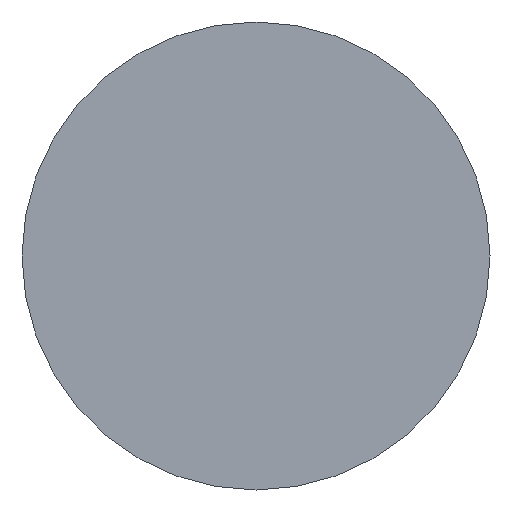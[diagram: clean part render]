
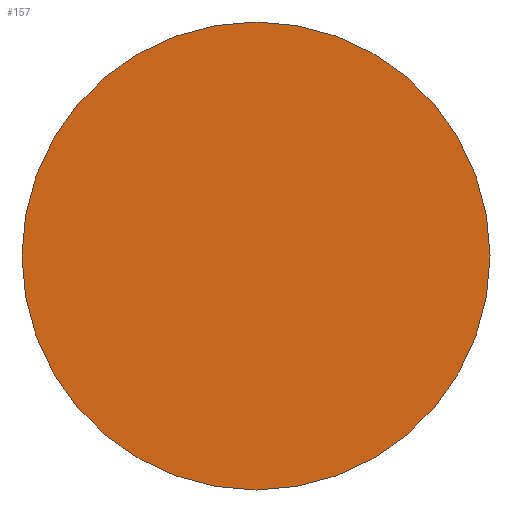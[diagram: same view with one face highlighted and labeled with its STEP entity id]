
A CAD part, left-side view. The second image highlights one B-rep face of the part: STEP entity #157.
In plain terms, the highlighted planar face has unit normal (-1, 0, 0).
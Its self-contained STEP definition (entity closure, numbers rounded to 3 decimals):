
#19 = VERTEX_POINT ( 'NONE', #205 ) ;
#23 = CARTESIAN_POINT ( 'NONE',  ( 0., -6., 0. ) ) ;
#25 = CARTESIAN_POINT ( 'NONE',  ( 0., 0., 0. ) ) ;
#31 = AXIS2_PLACEMENT_3D ( 'NONE', #201, #270, #142 ) ;
#48 = DIRECTION ( 'NONE',  ( 1., 0., 0. ) ) ;
#106 = EDGE_CURVE ( 'NONE', #236, #19, #189, .T. ) ;
#112 = CARTESIAN_POINT ( 'NONE',  ( 0., 0., 0. ) ) ;
#136 = CIRCLE ( 'NONE', #31, 6. ) ;
#142 = DIRECTION ( 'NONE',  ( 0., 1., 0. ) ) ;
#152 = ORIENTED_EDGE ( 'NONE', *, *, #269, .F. ) ;
#156 = DIRECTION ( 'NONE',  ( -1., 0., 0. ) ) ;
#157 = ADVANCED_FACE ( 'NONE', ( #215 ), #197, .T. ) ;
#187 = DIRECTION ( 'NONE',  ( 0., -1., 0. ) ) ;
#189 = CIRCLE ( 'NONE', #211, 6. ) ;
#197 = PLANE ( 'NONE',  #222 ) ;
#201 = CARTESIAN_POINT ( 'NONE',  ( 0., 0., 0. ) ) ;
#205 = CARTESIAN_POINT ( 'NONE',  ( 0., 6., 0. ) ) ;
#211 = AXIS2_PLACEMENT_3D ( 'NONE', #25, #48, #256 ) ;
#215 = FACE_OUTER_BOUND ( 'NONE', #253, .T. ) ;
#222 = AXIS2_PLACEMENT_3D ( 'NONE', #112, #156, #187 ) ;
#236 = VERTEX_POINT ( 'NONE', #23 ) ;
#246 = ORIENTED_EDGE ( 'NONE', *, *, #106, .F. ) ;
#253 = EDGE_LOOP ( 'NONE', ( #152, #246 ) ) ;
#256 = DIRECTION ( 'NONE',  ( 0., 1., 0. ) ) ;
#269 = EDGE_CURVE ( 'NONE', #19, #236, #136, .T. ) ;
#270 = DIRECTION ( 'NONE',  ( 1., 0., 0. ) ) ;
